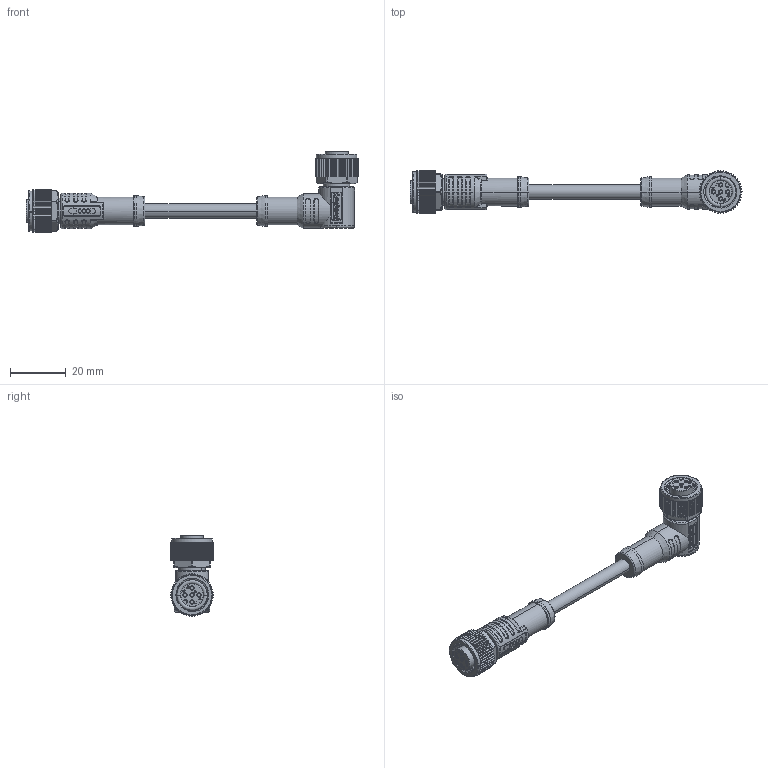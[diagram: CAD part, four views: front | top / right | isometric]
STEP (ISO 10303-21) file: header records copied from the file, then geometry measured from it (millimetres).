
FILE_DESCRIPTION((''),'2;1');
FILE_NAME('M12A05FL-12AFR-SBXXX_SW0001','2019-09-20T',('K170047'),(''),'PRO/ENGINEER BY PARAMETRIC TECHNOLOGY CORPORATION, 2013050','PRO/ENGINEER BY PARAMETRIC TECHNOLOGY CORPORATION, 2013050','');
FILE_SCHEMA(('CONFIG_CONTROL_DESIGN'));
Length unit declared in the file: millimetre
Products named in the file (1): M12A05FL-12AFR-SBXXX_SW0001
Bounding box: 118.75 x 15.3 x 28.9 mm (x, y, z)
Volume: 10630.2 mm3; surface area: 7627.3 mm2
Topology: 1 solids, 1 shells, 1659 faces, 4356 edges, 2794 vertices
Faces by surface type: plane 677, cylinder 318, bspline 264, extrusion 208, torus 112, cone 48, sphere 32
Entity records: 129811 total; most frequent: CARTESIAN_POINT 78637, ORIENTED_EDGE 8712, DIRECTION 7035, EDGE_CURVE 4356, VERTEX_POINT 2794, VECTOR 2351, AXIS2_PLACEMENT_3D 2342, LINE 2143
